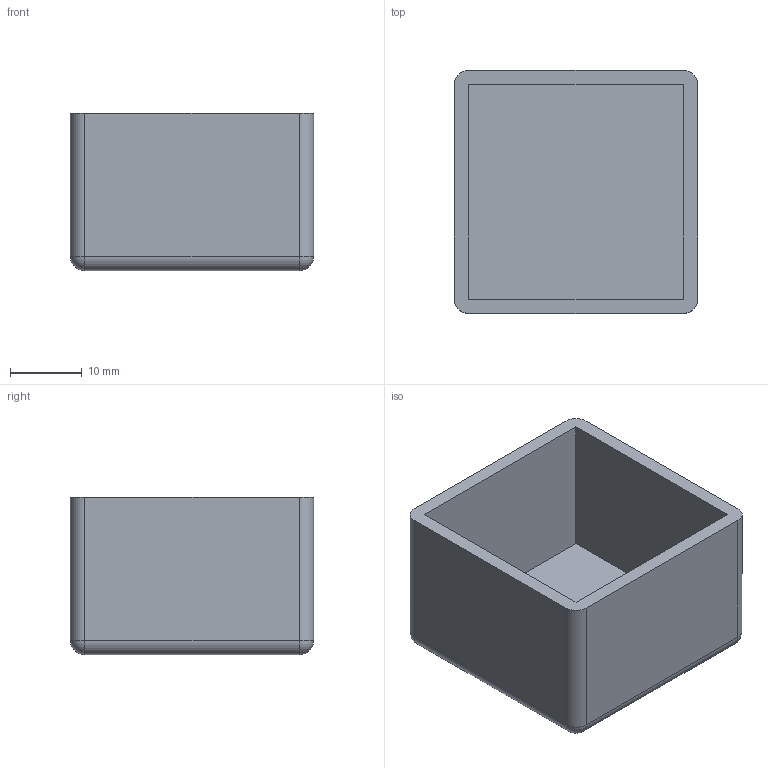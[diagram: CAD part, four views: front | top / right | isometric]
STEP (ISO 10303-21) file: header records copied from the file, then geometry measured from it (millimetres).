
FILE_DESCRIPTION(('STEP AP214'),'1');
FILE_NAME('EC30.stp','2017-07-24T04:43:06',(' '),(' '),'Spatial InterOp 3D',' ',' ');
FILE_SCHEMA(('automotive_design'));
Length unit declared in the file: millimetre
Products named in the file (1): EC30
Bounding box: 34 x 34 x 22 mm (x, y, z)
Volume: 7245.1 mm3; surface area: 7506 mm2
Topology: 1 solids, 1 shells, 23 faces, 52 edges, 28 vertices
Faces by surface type: plane 11, cylinder 8, sphere 4
Entity records: 802 total; most frequent: DIRECTION 112, CARTESIAN_POINT 100, ORIENTED_EDGE 96, EDGE_CURVE 48, AXIS2_PLACEMENT_3D 40, LINE 32, VECTOR 32, VERTEX_POINT 28
